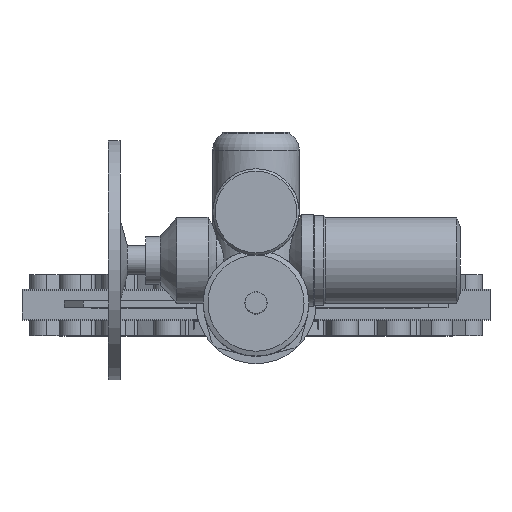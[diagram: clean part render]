
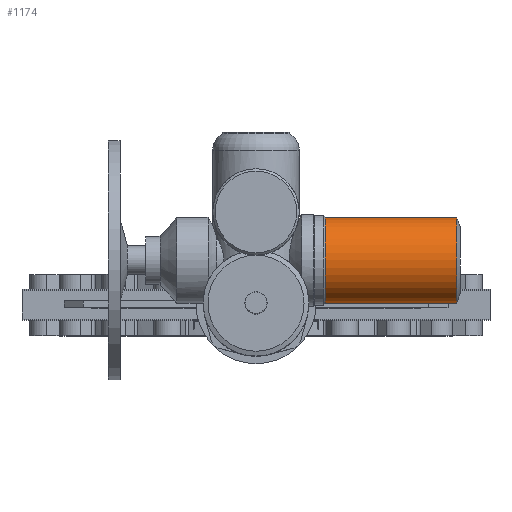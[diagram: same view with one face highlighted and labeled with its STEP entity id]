
A CAD part, top view. The second image highlights one B-rep face of the part: STEP entity #1174.
In plain terms, the highlighted cylindrical face has radius 90 mm (diameter 180 mm), a full revolution.
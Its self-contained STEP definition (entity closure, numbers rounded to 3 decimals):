
#1174=ADVANCED_FACE('',(#2354,#2356),#2358,.T.);
#2354=FACE_OUTER_BOUND('',#2355,.T.);
#2355=EDGE_LOOP('',(#5909));
#2356=FACE_OUTER_BOUND('',#2357,.T.);
#2357=EDGE_LOOP('',(#5910));
#2358=CYLINDRICAL_SURFACE('',#2359,90.);
#2359=AXIS2_PLACEMENT_3D('',#2360,#2361,#2362);
#2360=CARTESIAN_POINT('',(417.721,90.,2197.));
#2361=DIRECTION('',(-1.,0.,0.));
#2362=DIRECTION('',(0.,0.,1.));
#5909=ORIENTED_EDGE('',*,*,#8704,.T.);
#5910=ORIENTED_EDGE('',*,*,#8702,.F.);
#8702=EDGE_CURVE('',#10862,#10862,#10863,.T.);
#8704=EDGE_CURVE('',#10866,#10866,#10867,.T.);
#10862=VERTEX_POINT('',#13843);
#10863=CIRCLE('',#13844,90.);
#10866=VERTEX_POINT('',#13853);
#10867=CIRCLE('',#13854,90.);
#13843=CARTESIAN_POINT('',(143.811,90.,2287.));
#13844=AXIS2_PLACEMENT_3D('',#13845,#13846,#13847);
#13845=CARTESIAN_POINT('',(143.811,90.,2197.));
#13846=DIRECTION('',(-1.,0.,0.));
#13847=DIRECTION('',(0.,0.,1.));
#13853=CARTESIAN_POINT('',(417.721,90.,2287.));
#13854=AXIS2_PLACEMENT_3D('',#13855,#13856,#13857);
#13855=CARTESIAN_POINT('',(417.721,90.,2197.));
#13856=DIRECTION('',(-1.,0.,0.));
#13857=DIRECTION('',(0.,0.,1.));
